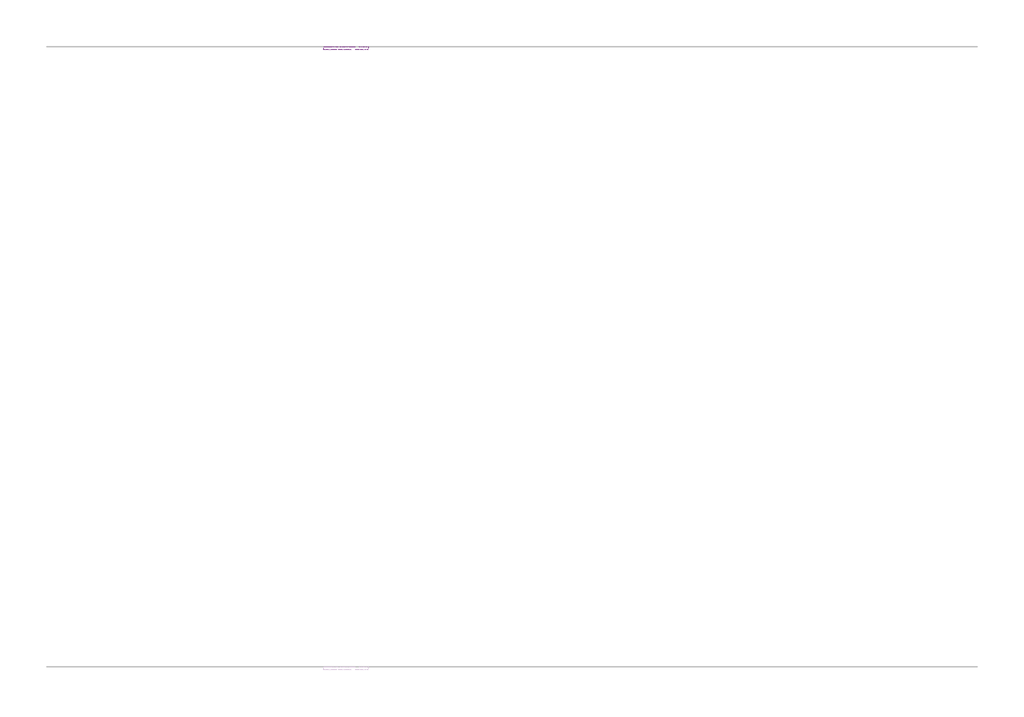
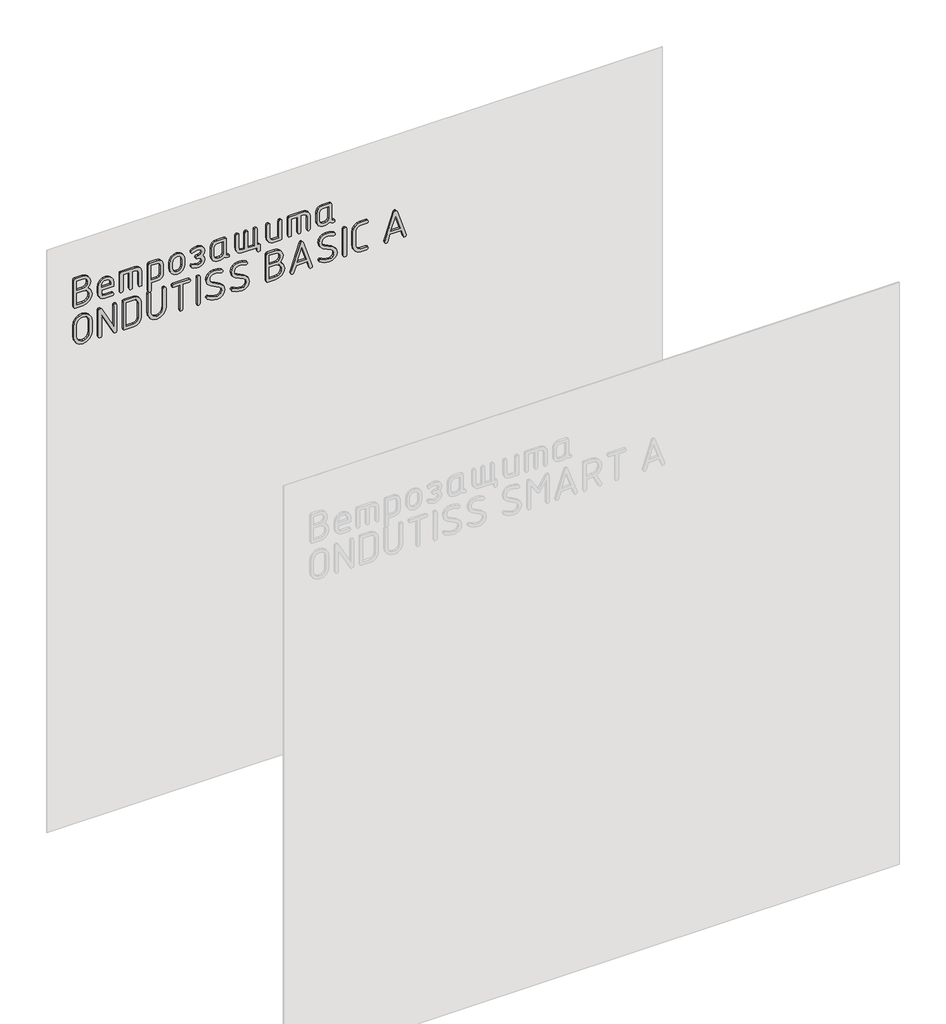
# One storey, part 26 of 42: 1 proxy.
"""IFC4 building model written with IfcOpenShell, lengths in millimetres."""

import ifcopenshell
import ifcopenshell.guid

model = None  # the IFC model being written
_history = None  # IfcOwnerHistory: only IFC2X3 demands one
_inside = {}  # id of a spatial element -> (the spatial element, [elements in it])
_under = {}  # id of a project, library or spatial element -> (it, [spatial elements below it])
_declared = {}  # id of a project -> (the project, [libraries it declares])
_typed = {}  # id of a type object -> (the type object, [elements of that type])
_made_of = {}  # id of a material, layer set ... -> (it, [elements and type objects made of it])


def new_model(schema):
    """Start an empty IFC model of exactly this schema.

    Asked for "IFC4X3", IfcOpenShell would pick the latest addendum, in which some entities
    have other attributes; the version numbers below select the first issue.
    IFC2X3 requires an IfcOwnerHistory on every rooted entity: one is made here for all.
    """
    global model, _history
    if schema == "IFC4X3":
        model = ifcopenshell.file(schema_version=(4, 3, 0, 0))
    else:
        model = ifcopenshell.file(schema=schema)
    _inside.clear()
    _under.clear()
    _declared.clear()
    _typed.clear()
    _made_of.clear()
    _history = None
    if model.schema == "IFC2X3":
        org = make("IfcOrganization", Name="unknown")
        user = make(
            "IfcPersonAndOrganization",
            ThePerson=make("IfcPerson", FamilyName="unknown"),
            TheOrganization=org,
        )
        app = make(
            "IfcApplication",
            ApplicationDeveloper=org,
            Version="unknown",
            ApplicationFullName="unknown",
            ApplicationIdentifier="unknown",
        )
        _history = make(
            "IfcOwnerHistory",
            OwningUser=user,
            OwningApplication=app,
            ChangeAction="ADDED",
            CreationDate=0,
        )
    return model


def make(cls, **values):
    """One entity of the class cls with the attributes given. An attribute that is None is left unset."""
    return model.create_entity(
        cls, **{name: value for name, value in values.items() if value is not None}
    )


def rooted(cls, **values):
    """An entity with a GlobalId (a new one), such as an element, a storey or a relation."""
    return make(cls, GlobalId=ifcopenshell.guid.new(), OwnerHistory=_history, **values)


def si_unit(unit_type, name, prefix=None):
    """IfcSIUnit, for example si_unit("LENGTHUNIT", "METRE", prefix="MILLI")."""
    return make("IfcSIUnit", UnitType=unit_type, Prefix=prefix, Name=name)


def assignment(units):
    """IfcUnitAssignment: the units of a project."""
    return None if units is None else make("IfcUnitAssignment", Units=units)


def point(xyz):
    """IfcCartesianPoint."""
    return None if xyz is None else make("IfcCartesianPoint", Coordinates=xyz)


def direction(xyz):
    """IfcDirection."""
    return None if xyz is None else make("IfcDirection", DirectionRatios=xyz)


def frame(location, z_axis=None, x_axis=None):
    """IfcAxis2Placement3D, a coordinate frame: its origin and axes. An axis left out is left unset."""
    return make(
        "IfcAxis2Placement3D",
        Location=point(location),
        Axis=direction(z_axis),
        RefDirection=direction(x_axis),
    )


def origin():
    """The frame at (0, 0, 0) with its axes left unset."""
    return frame((0.0, 0.0, 0.0))


def place(relative_to, where):
    """IfcLocalPlacement: puts the frame where relative to a parent placement (None: the world)."""
    return make(
        "IfcLocalPlacement", PlacementRelTo=relative_to, RelativePlacement=where
    )


def context(
    kind, dimensions, precision=None, world=None, true_north=None, identifier=None
):
    """IfcGeometricRepresentationContext, for example the 3D "Model" context."""
    return make(
        "IfcGeometricRepresentationContext",
        ContextIdentifier=identifier,
        ContextType=kind,
        CoordinateSpaceDimension=dimensions,
        Precision=precision,
        WorldCoordinateSystem=world,
        TrueNorth=true_north,
    )


def project(units=None, contexts=None):
    """IfcProject with its units and contexts."""
    return rooted(
        "IfcProject",
        Name="project",
        RepresentationContexts=contexts,
        UnitsInContext=assignment(units),
    )


def spatial(cls, under=None, at=None, **own):
    """A site, building, storey or space (cls), placed at a placement, below another one or the project."""
    s = rooted(cls, ObjectPlacement=at, **own)
    if under is not None:
        _under.setdefault(under.id(), (under, []))[1].append(s)
    return s


def polyline(points):
    """IfcPolyline through the points."""
    return make("IfcPolyline", Points=[point(p) for p in points])


def outline(outer, holes=None, kind="AREA"):
    """IfcArbitraryClosedProfileDef: a profile drawn as a closed curve; with holes, ...WithVoids."""
    if holes is None:
        return make("IfcArbitraryClosedProfileDef", ProfileType=kind, OuterCurve=outer)
    return make(
        "IfcArbitraryProfileDefWithVoids",
        ProfileType=kind,
        OuterCurve=outer,
        InnerCurves=holes,
    )


def extrude(swept, where, along, depth):
    """IfcExtrudedAreaSolid: the profile swept, set in the frame where, extruded along a direction by depth."""
    return make(
        "IfcExtrudedAreaSolid",
        SweptArea=swept,
        Position=where,
        ExtrudedDirection=direction(along),
        Depth=depth,
    )


def shape(context_of_items, identifier, shape_type, items):
    """IfcShapeRepresentation: the items that make up one representation, for example the "Body"."""
    return make(
        "IfcShapeRepresentation",
        ContextOfItems=context_of_items,
        RepresentationIdentifier=identifier,
        RepresentationType=shape_type,
        Items=items,
    )


def made_of(thing, what):
    """Note that an element or type object is made of a material, layer set ...; save() writes the relation."""
    if what is not None:
        _made_of.setdefault(what.id(), (what, []))[1].append(thing)
    return thing


def element(
    cls,
    number,
    at=None,
    inside=None,
    cuts=None,
    type_object=None,
    material=None,
    context=None,
    identifier="Body",
    shape_type=None,
    held_by="IfcProductDefinitionShape",
    body=None,
    shapes=None,
    **own,
):
    """One element of the class cls, such as IfcWall. Its Tag is "e" and its number.

    at: its placement. inside: the storey or other place that contains it. cuts: it is an
    opening in that element (IfcRelVoidsElement). A single representation is given by context,
    identifier, shape_type and body (its items); several are given by shapes. held_by: the class
    of the entity that holds the representations. save() writes the other relations.
    """
    e = rooted(cls, Tag="e%d" % number, ObjectPlacement=at, **own)
    if body is not None:
        shapes = [shape(context, identifier, shape_type, body)]
    if shapes is not None:
        e.Representation = make(held_by, Representations=shapes)
    if inside is not None:
        _inside.setdefault(inside.id(), (inside, []))[1].append(e)
    if cuts is not None:
        rooted(
            "IfcRelVoidsElement", RelatingBuildingElement=cuts, RelatedOpeningElement=e
        )
    if type_object is not None:
        _typed.setdefault(type_object.id(), (type_object, []))[1].append(e)
    return made_of(e, material)


def aggregate(whole, parts):
    """IfcRelAggregates: a whole, such as a stair, and the parts it consists of."""
    return rooted("IfcRelAggregates", RelatingObject=whole, RelatedObjects=parts)


def save(model, path):
    """Write the relations noted so far, then the file.

    IfcRelAggregates (storeys below a building ...), IfcRelContainedInSpatialStructure (elements
    in a storey), IfcRelDefinesByType, IfcRelAssociatesMaterial and IfcRelDeclares: one each for
    every whole, place, type object, material and project.
    """
    for whole, parts in _under.values():
        aggregate(whole, parts)
    for where, things in _inside.values():
        rooted(
            "IfcRelContainedInSpatialStructure",
            RelatedElements=things,
            RelatingStructure=where,
        )
    for kind, things in _typed.values():
        rooted("IfcRelDefinesByType", RelatedObjects=things, RelatingType=kind)
    for what, things in _made_of.values():
        rooted("IfcRelAssociatesMaterial", RelatedObjects=things, RelatingMaterial=what)
    for by, libraries in _declared.values():
        rooted("IfcRelDeclares", RelatingContext=by, RelatedDefinitions=libraries)
    model.write(path)


model = new_model("IFC4")

# Units and contexts
model_context = context("Model", 3, world=origin())
ifc_project = project(units=[si_unit("LENGTHUNIT", "METRE", prefix="MILLI")], contexts=[model_context])

# Site, building, storey
site = spatial("IfcSite", under=ifc_project)
building = spatial("IfcBuilding", under=site)
storey = spatial("IfcBuildingStorey", under=building, Name="Этаж 01", Elevation=0.0)

# Proxy
placement = place(None, origin())
element("IfcBuildingElementProxy", 1, Name="150 мм GOST Common", ObjectType="150 мм GOST Common", at=placement, inside=storey, context=model_context, shape_type="SweptSolid", body=[
    extrude(outline(polyline([(2745.2967896, -23242.9801231), (2758.5207699, -23232.3430091), (2775.180588, -23228.7973044), (2790.0625597, -23231.4890436), (2802.4275806, -23239.5642611), (2810.7574896, -23251.5547357), (2813.534126, -23265.9922459), (2813.534126, -23303.1871874), (2811.6464128, -23308.7604359), (2805.9832732, -23310.6181854), (2670.2277293, -23310.6181854), (2664.5645897, -23308.750448), (2662.6768765, -23303.1472358), (2662.6768765, -23265.8723911), (2665.9479139, -23248.6932022), (2675.7610262, -23234.2307223), (2690.1885485, -23224.4026281), (2707.302816, -23221.1265968), (2729.4859431, -23226.5899784), (2745.2967896, -23242.9801231)]), holes=[polyline([(2798.1927108, -23295.2767702), (2798.1927108, -23266.0721491), (2796.5097495, -23257.6373671), (2791.4608658, -23250.5509517), (2784.0248739, -23245.7417776), (2775.180588, -23244.1387196), (2766.3363021, -23245.7417776), (2758.9003101, -23250.5509517), (2753.8514264, -23257.6373671), (2752.1684652, -23266.0721491), (2752.1684652, -23295.2767702), (2798.1927108, -23295.2767702)]), polyline([(2736.82705, -23295.2767702), (2736.82705, -23265.8723911), (2734.6946332, -23254.4811906), (2728.2973829, -23244.997679), (2718.8138714, -23238.6004287), (2707.4226708, -23236.468012), (2696.0314703, -23238.6004287), (2686.5479588, -23244.997679), (2680.1507085, -23254.4811906), (2678.0182917, -23265.8723911), (2678.0182917, -23295.2767702), (2736.82705, -23295.2767702)])]), frame((0.0, -21838.3929597, 0.0), z_axis=(0.0, 1.0, 0.0), x_axis=(0.0, 0.0, 1.0)), (0.0, 0.0, 1.0), 10.0),
    extrude(outline(polyline([(2708.7011221, -23175.1023512), (2708.7011221, -23115.0950449), (2730.7544065, -23115.0950449), (2745.0371042, -23117.8067599), (2756.8827542, -23125.9419048), (2764.8530988, -23138.0322584), (2767.5098804, -23152.6095992), (2764.7731956, -23167.0770731), (2756.5631414, -23179.3172452), (2744.4677939, -23187.6621361), (2730.0752292, -23190.4437664), (2692.6405781, -23190.4437664), (2681.004674, -23188.2264525), (2671.3463742, -23181.5745107), (2664.8442509, -23171.7763803), (2662.6768765, -23160.1205004), (2662.6768765, -23122.6059461), (2664.5945534, -23116.9727702), (2670.3475841, -23115.0950449), (2676.1006148, -23116.9727702), (2678.0182917, -23122.6059461), (2678.0182917, -23160.1205004), (2682.5527986, -23170.6677234), (2693.3597069, -23175.1023512), (2708.7011221, -23175.1023512)]), holes=[polyline([(2754.0461905, -23152.6095992), (2752.3981869, -23143.9800532), (2747.4541761, -23136.7088616), (2740.1829845, -23131.7648508), (2731.5534385, -23130.1168472), (2724.0425373, -23130.1168472), (2724.0425373, -23175.1023512), (2731.5534385, -23175.1023512), (2740.1829845, -23173.4543476), (2747.4541761, -23168.5103368), (2752.3981869, -23161.2391453), (2754.0461905, -23152.6095992)])]), frame((0.0, -21838.3929597, 0.0), z_axis=(0.0, 1.0, 0.0), x_axis=(0.0, 0.0, 1.0)), (0.0, 0.0, 1.0), 10.0),
    extrude(outline(polyline([(2767.5098804, -23077.9400549), (2765.642143, -23083.6930856), (2760.0389308, -23085.6107625), (2670.1478261, -23085.6107625), (2664.5446139, -23083.6930856), (2662.6768765, -23077.9400549), (2664.5446139, -23072.1870242), (2670.1478261, -23070.2693473), (2752.1684652, -23070.2693473), (2752.1684652, -23039.5865169), (2670.1478261, -23039.5865169), (2664.5446139, -23037.66884), (2662.6768765, -23031.9158093), (2664.5446139, -23026.1627786), (2670.1478261, -23024.2451017), (2752.1684652, -23024.2451017), (2752.1684652, -23008.9036865), (2747.8736679, -22997.9769234), (2737.2665176, -22993.5622713), (2670.1478261, -22993.5622713), (2664.5446139, -22991.6445944), (2662.6768765, -22985.8915637), (2664.5446139, -22980.138533), (2670.1478261, -22978.2208561), (2737.5461788, -22978.2208561), (2749.1071737, -22980.4581459), (2758.7804553, -22987.170015), (2765.3275241, -22997.0780123), (2767.5098804, -23008.9036865), (2767.5098804, -23077.9400549)])), frame((0.0, -21838.3929597, 0.0), z_axis=(0.0, 1.0, 0.0), x_axis=(0.0, 0.0, 1.0)), (0.0, 0.0, 1.0), 10.0),
    extrude(outline(polyline([(2759.9590276, -22947.5380258), (2624.2034837, -22947.5380258), (2618.5403441, -22945.6203489), (2616.6526309, -22939.8673182), (2618.5703078, -22934.1142875), (2624.3233385, -22932.1966106), (2662.6768765, -22932.1966106), (2662.6768765, -22902.7922314), (2664.8592328, -22891.4010309), (2671.4063016, -22881.9175193), (2681.0795832, -22875.5202691), (2692.6405781, -22873.3878523), (2737.5461788, -22873.3878523), (2749.1820829, -22875.5352509), (2758.8403827, -22881.9774467), (2765.342506, -22891.5358675), (2767.5098804, -22903.031941), (2767.5098804, -22940.1070278), (2765.6221672, -22945.6802763), (2759.9590276, -22947.5380258)]), holes=[polyline([(2752.1684652, -22932.1966106), (2752.1684652, -22903.2316991), (2747.8936437, -22892.9042099), (2737.3464208, -22888.7292675), (2692.8403361, -22888.7292675), (2682.3530405, -22892.9641373), (2678.0182917, -22903.2316991), (2678.0182917, -22932.1966106), (2752.1684652, -22932.1966106)])]), frame((0.0, -21838.3929597, 0.0), z_axis=(0.0, 1.0, 0.0), x_axis=(0.0, 0.0, 1.0)), (0.0, 0.0, 1.0), 10.0),
    extrude(outline(polyline([(2700.1115277, -22842.7050219), (2685.718963, -22839.9933069), (2673.6236155, -22831.8581619), (2665.4135613, -22819.8776753), (2662.6768765, -22805.6299352), (2665.4135613, -22791.3821951), (2673.6236155, -22779.4017084), (2685.718963, -22771.2665634), (2700.1115277, -22768.5548485), (2730.0752292, -22768.5548485), (2744.6176124, -22771.2365997), (2756.6829962, -22779.2818536), (2764.8031593, -22791.2323766), (2767.5098804, -22805.6299352), (2764.7731956, -22819.8776753), (2756.5631414, -22831.8581619), (2744.4677939, -22839.9933069), (2730.0752292, -22842.7050219), (2700.1115277, -22842.7050219)]), holes=[polyline([(2700.5509953, -22783.8962636), (2691.8914855, -22785.4893338), (2684.6103061, -22790.2685442), (2679.6662953, -22797.2950322), (2678.0182917, -22805.6299352), (2679.6563074, -22814.0397474), (2684.5703545, -22821.0512536), (2691.841546, -22825.7855184), (2700.5509953, -22827.3636067), (2730.5546484, -22827.3636067), (2739.1841945, -22825.7705366), (2746.4553861, -22820.9913262), (2751.3993968, -22813.9648382), (2753.0474004, -22805.6299352), (2751.3993968, -22797.2950322), (2746.4553861, -22790.2685442), (2739.1841945, -22785.4893338), (2730.5546484, -22783.8962636), (2700.5509953, -22783.8962636)])]), frame((0.0, -21838.3929597, 0.0), z_axis=(0.0, 1.0, 0.0), x_axis=(0.0, 0.0, 1.0)), (0.0, 0.0, 1.0), 10.0),
    extrude(outline(polyline([(2693.3996585, -22686.7339674), (2682.5128469, -22691.1086678), (2678.0182917, -22701.7557698), (2678.0182917, -22709.266671), (2681.8336697, -22724.3084492), (2685.6490477, -22733.4373902), (2682.9323388, -22737.5524052), (2677.6587273, -22739.2703241), (2671.7059386, -22736.2240145), (2666.6320851, -22727.0850855), (2662.6768765, -22709.266671), (2662.6768765, -22701.7557698), (2664.8991844, -22690.0699262), (2671.566108, -22680.2618079), (2681.4591234, -22673.6098661), (2693.3597069, -22671.3925522), (2707.1829612, -22674.0393458), (2716.3718297, -22681.9797267), (2725.0113637, -22674.0393458), (2738.3052592, -22671.3925522), (2749.6215505, -22673.6098661), (2759.0401407, -22680.2618079), (2765.3924455, -22690.0699262), (2767.5098804, -22701.7557698), (2767.5098804, -22709.266671), (2763.434817, -22726.9652307), (2758.2710724, -22736.1940508), (2752.5280296, -22739.2703241), (2747.2743939, -22737.5524052), (2744.5377092, -22733.557245), (2748.3530872, -22724.6480378), (2752.1684652, -22709.266671), (2752.1684652, -22701.7557698), (2748.1133776, -22691.0687162), (2738.1055012, -22686.7339674), (2728.0976249, -22690.7690792), (2724.0425373, -22702.434947), (2724.0425373, -22704.8320431), (2724.0425373, -22707.1092845), (2721.7852718, -22714.5203066), (2716.3318781, -22716.7376206), (2710.8984602, -22714.580234), (2708.7011221, -22709.266671), (2708.7011221, -22699.5983833), (2704.7459135, -22690.7291276), (2693.3996585, -22686.7339674)])), frame((0.0, -21838.3929597, 0.0), z_axis=(0.0, 1.0, 0.0), x_axis=(0.0, 0.0, 1.0)), (0.0, 0.0, 1.0), 10.0),
    extrude(outline(polyline([(2670.1478261, -22551.5776976), (2675.781002, -22553.4504289), (2677.6587273, -22559.068623), (2679.5264647, -22564.686817), (2685.1296769, -22566.5595483), (2760.0389308, -22566.5595483), (2765.642143, -22568.4172978), (2767.5098804, -22573.9905463), (2767.5098804, -22611.0656331), (2765.342506, -22622.5617066), (2758.8403827, -22632.1201274), (2749.1820829, -22638.5623232), (2737.5461788, -22640.7097218), (2692.6405781, -22640.7097218), (2681.004674, -22638.5623232), (2671.3463742, -22632.1201274), (2664.8442509, -22622.5617066), (2662.6768765, -22611.0656331), (2662.6768765, -22596.2036371), (2664.6644687, -22585.2269344), (2670.6272453, -22576.1079812), (2664.6644687, -22568.5271648), (2662.6768765, -22559.0486472), (2664.5446139, -22553.445435), (2670.1478261, -22551.5776976)]), holes=[polyline([(2752.1684652, -22581.9009635), (2692.8403361, -22581.9009635), (2682.3530405, -22586.1358334), (2678.0182917, -22596.4033951), (2678.0182917, -22610.8658751), (2682.3929921, -22621.0934852), (2692.8403361, -22625.3683066), (2737.3464208, -22625.3683066), (2747.8337163, -22621.1334368), (2752.1684652, -22610.8658751), (2752.1684652, -22581.9009635)])]), frame((0.0, -21838.3929597, 0.0), z_axis=(0.0, 1.0, 0.0), x_axis=(0.0, 0.0, 1.0)), (0.0, 0.0, 1.0), 10.0),
    extrude(outline(polyline([(2662.6768765, -22415.7022989), (2647.3354613, -22415.7022989), (2641.5824306, -22413.784622), (2639.6647537, -22408.0315913), (2641.5824306, -22402.2785606), (2647.3354613, -22400.3608837), (2670.3475841, -22400.3608837), (2676.1006148, -22402.2785606), (2678.0182917, -22408.0315913), (2678.0182917, -22415.7022989), (2760.0389308, -22415.7022989), (2765.642143, -22417.6199758), (2767.5098804, -22423.3730065), (2765.642143, -22429.1260372), (2760.0389308, -22431.0437141), (2678.0182917, -22431.0437141), (2678.0182917, -22461.7265445), (2760.0389308, -22461.7265445), (2765.642143, -22463.6442214), (2767.5098804, -22469.3972521), (2765.642143, -22475.1502828), (2760.0389308, -22477.0679597), (2678.0182917, -22477.0679597), (2678.0182917, -22491.1309236), (2682.4329437, -22501.0389209), (2692.9202393, -22505.1938876), (2760.0389308, -22505.1938876), (2765.642143, -22507.1115645), (2767.5098804, -22512.8645952), (2765.642143, -22518.6176259), (2760.0389308, -22520.5353028), (2692.6405781, -22520.5353028), (2681.0795832, -22518.3679283), (2671.4063016, -22511.8658051), (2664.8592328, -22502.2075053), (2662.6768765, -22490.5716012), (2662.6768765, -22415.7022989)])), frame((0.0, -21838.3929597, 0.0), z_axis=(0.0, 1.0, 0.0), x_axis=(0.0, 0.0, 1.0)), (0.0, 0.0, 1.0), 10.0),
    extrude(outline(polyline([(2760.0389308, -22295.5278799), (2765.642143, -22297.4455568), (2767.5098804, -22303.1985875), (2765.642143, -22308.9516182), (2760.0389308, -22310.8692951), (2678.0182917, -22310.8692951), (2678.0182917, -22339.8342066), (2682.4329437, -22350.0618167), (2692.9202393, -22354.3366381), (2760.0389308, -22354.3366381), (2765.642143, -22356.254315), (2767.5098804, -22362.0073457), (2765.642143, -22367.7603764), (2760.0389308, -22369.6780533), (2692.6405781, -22369.6780533), (2681.004674, -22367.5306547), (2671.3463742, -22361.0884589), (2664.8442509, -22351.5300381), (2662.6768765, -22340.0339646), (2662.6768765, -22302.9588778), (2664.5446139, -22297.3856294), (2670.1478261, -22295.5278799), (2760.0389308, -22295.5278799)])), frame((0.0, -21838.3929597, 0.0), z_axis=(0.0, 1.0, 0.0), x_axis=(0.0, 0.0, 1.0)), (0.0, 0.0, 1.0), 10.0),
    extrude(outline(polyline([(2767.5098804, -22257.1743419), (2765.642143, -22262.9273726), (2760.0389308, -22264.8450495), (2670.1478261, -22264.8450495), (2664.5446139, -22262.9273726), (2662.6768765, -22257.1743419), (2664.5446139, -22251.4213112), (2670.1478261, -22249.5036343), (2752.1684652, -22249.5036343), (2752.1684652, -22218.8208039), (2670.1478261, -22218.8208039), (2664.5446139, -22216.903127), (2662.6768765, -22211.1500963), (2664.5446139, -22205.3970656), (2670.1478261, -22203.4793887), (2752.1684652, -22203.4793887), (2752.1684652, -22188.1379735), (2747.8736679, -22177.2112103), (2737.2665176, -22172.7965583), (2670.1478261, -22172.7965583), (2664.5446139, -22170.8788814), (2662.6768765, -22165.1258507), (2664.5446139, -22159.37282), (2670.1478261, -22157.4551431), (2737.5461788, -22157.4551431), (2749.1071737, -22159.6924328), (2758.7804553, -22166.4043019), (2765.3275241, -22176.3122993), (2767.5098804, -22188.1379735), (2767.5098804, -22257.1743419)])), frame((0.0, -21838.3929597, 0.0), z_axis=(0.0, 1.0, 0.0), x_axis=(0.0, 0.0, 1.0)), (0.0, 0.0, 1.0), 10.0),
    extrude(outline(polyline([(2670.1478261, -22037.6402885), (2675.781002, -22039.5130198), (2677.6587273, -22045.1312138), (2679.5264647, -22050.7494079), (2685.1296769, -22052.6221392), (2760.0389308, -22052.6221392), (2765.642143, -22054.4798887), (2767.5098804, -22060.0531372), (2767.5098804, -22097.1282239), (2765.342506, -22108.6242974), (2758.8403827, -22118.1827182), (2749.1820829, -22124.6249141), (2737.5461788, -22126.7723127), (2692.6405781, -22126.7723127), (2681.004674, -22124.6249141), (2671.3463742, -22118.1827182), (2664.8442509, -22108.6242974), (2662.6768765, -22097.1282239), (2662.6768765, -22082.266228), (2664.6644687, -22071.2895253), (2670.6272453, -22062.1705721), (2664.6644687, -22054.5897556), (2662.6768765, -22045.111238), (2664.5446139, -22039.5080259), (2670.1478261, -22037.6402885)]), holes=[polyline([(2752.1684652, -22067.9635544), (2692.8403361, -22067.9635544), (2682.3530405, -22072.1984243), (2678.0182917, -22082.465986), (2678.0182917, -22096.9284659), (2682.3929921, -22107.1560761), (2692.8403361, -22111.4308975), (2737.3464208, -22111.4308975), (2747.8337163, -22107.1960277), (2752.1684652, -22096.9284659), (2752.1684652, -22067.9635544)])]), frame((0.0, -21838.3929597, 0.0), z_axis=(0.0, 1.0, 0.0), x_axis=(0.0, 0.0, 1.0)), (0.0, 0.0, 1.0), 10.0),
    extrude(outline(polyline([(2511.9177961, -23221.1265968), (2572.2447152, -23221.1265968), (2589.6885835, -23224.3876463), (2604.3058759, -23234.1707949), (2614.2088792, -23248.618293), (2617.5098804, -23265.8723911), (2614.1938974, -23283.05158), (2604.2459485, -23297.5140599), (2589.6136742, -23307.3421541), (2572.2447152, -23310.6181854), (2511.9177961, -23310.6181854), (2494.5488371, -23307.3421541), (2479.9165628, -23297.5140599), (2469.9686139, -23283.05158), (2466.6526309, -23265.8723911), (2469.9686139, -23248.6932022), (2479.9165628, -23234.2307223), (2494.5488371, -23224.4026281), (2511.9177961, -23221.1265968)]), holes=[polyline([(2512.0376509, -23236.468012), (2500.3917589, -23238.6004287), (2490.7034954, -23244.997679), (2484.1714084, -23254.4811906), (2481.9940461, -23265.8723911), (2484.1714084, -23277.2635916), (2490.7034954, -23286.7471032), (2500.3917589, -23293.1443535), (2512.0376509, -23295.2767702), (2572.1248604, -23295.2767702), (2583.7707524, -23293.1443535), (2593.4590159, -23286.7471032), (2599.9911029, -23277.2635916), (2602.1684652, -23265.8723911), (2599.9911029, -23254.4811906), (2593.4590159, -23244.997679), (2583.7707524, -23238.6004287), (2572.1248604, -23236.468012), (2512.0376509, -23236.468012)])]), frame((0.0, -21838.3929597, 0.0), z_axis=(0.0, 1.0, 0.0), x_axis=(0.0, 0.0, 1.0)), (0.0, 0.0, 1.0), 10.0),
    extrude(outline(polyline([(2503.3282016, -23116.2935929), (2613.0353009, -23175.1023512), (2617.5098804, -23182.453446), (2615.6221672, -23188.4461863), (2609.9590276, -23190.4437664), (2474.2034837, -23190.4437664), (2468.5403441, -23188.5260895), (2466.6526309, -23182.7730588), (2468.5403441, -23177.0200281), (2474.2034837, -23175.1023512), (2580.9541645, -23175.1023512), (2470.4080815, -23116.2935929), (2466.6526309, -23109.1023046), (2468.5403441, -23102.9897094), (2474.2034837, -23100.9521777), (2609.9590276, -23100.9521777), (2615.6221672, -23102.8698546), (2617.5098804, -23108.6228853), (2615.6221672, -23114.375916), (2609.9590276, -23116.2935929), (2503.3282016, -23116.2935929)])), frame((0.0, -21838.3929597, 0.0), z_axis=(0.0, 1.0, 0.0), x_axis=(0.0, 0.0, 1.0)), (0.0, 0.0, 1.0), 10.0),
    extrude(outline(polyline([(2609.9590276, -23070.2693473), (2474.2034837, -23070.2693473), (2468.5403441, -23068.4016099), (2466.6526309, -23062.7983977), (2466.6526309, -23018.0526034), (2469.4092915, -23003.7299541), (2477.6792731, -22991.684546), (2489.8645117, -22983.5044555), (2504.3669433, -22980.7777587), (2579.795568, -22980.7777587), (2594.4478181, -22983.4744918), (2606.603093, -22991.5646912), (2614.7831835, -23003.5801356), (2617.5098804, -23018.0526034), (2617.5098804, -23062.7983977), (2615.6221672, -23068.4016099), (2609.9590276, -23070.2693473)]), holes=[polyline([(2602.1684652, -23054.9279321), (2602.1684652, -23018.1724582), (2600.5204616, -23009.6977246), (2595.5764508, -23002.5713576), (2588.2952713, -22997.7322198), (2579.6357616, -22996.1191739), (2504.5267497, -22996.1191739), (2495.8672399, -22997.7322198), (2488.5860605, -23002.5713576), (2483.6420497, -23009.6977246), (2481.9940461, -23018.1724582), (2481.9940461, -23054.9279321), (2602.1684652, -23054.9279321)])]), frame((0.0, -21838.3929597, 0.0), z_axis=(0.0, 1.0, 0.0), x_axis=(0.0, 0.0, 1.0)), (0.0, 0.0, 1.0), 10.0),
    extrude(outline(polyline([(2609.9590276, -22860.6033396), (2615.6221672, -22862.5210165), (2617.5098804, -22868.2740472), (2615.6321551, -22874.0270779), (2609.9989792, -22875.9447548), (2512.1175541, -22875.9447548), (2500.4367044, -22878.0771716), (2490.7234712, -22884.4744219), (2484.1764024, -22893.9579334), (2481.9940461, -22905.349134), (2484.1764024, -22916.7403345), (2490.7234712, -22926.223846), (2500.4367044, -22932.6210963), (2512.1175541, -22934.7535131), (2609.9989792, -22934.7535131), (2615.6321551, -22936.67119), (2617.5098804, -22942.4242207), (2615.6221672, -22948.1772514), (2609.9590276, -22950.0949283), (2511.9177961, -22950.0949283), (2494.5488371, -22946.8188969), (2479.9165628, -22936.9908028), (2469.9686139, -22922.5283229), (2466.6526309, -22905.349134), (2469.9686139, -22888.1699451), (2479.9165628, -22873.7074651), (2494.5488371, -22863.879371), (2511.9177961, -22860.6033396), (2609.9590276, -22860.6033396)])), frame((0.0, -21838.3929597, 0.0), z_axis=(0.0, 1.0, 0.0), x_axis=(0.0, 0.0, 1.0)), (0.0, 0.0, 1.0), 10.0),
    extrude(outline(polyline([(2609.8391728, -22831.6384281), (2604.0861421, -22829.7607028), (2602.1684652, -22824.1275269), (2602.1684652, -22794.1238738), (2474.1635321, -22794.1238738), (2468.5303562, -22792.2061969), (2466.6526309, -22786.4531662), (2468.5303562, -22780.7001355), (2474.1635321, -22778.7824586), (2602.1684652, -22778.7824586), (2602.1684652, -22748.7788054), (2604.0861421, -22743.1755932), (2609.8391728, -22741.3078558), (2615.5922035, -22743.1755932), (2617.5098804, -22748.7788054), (2617.5098804, -22824.1275269), (2615.5922035, -22829.7607028), (2609.8391728, -22831.6384281)])), frame((0.0, -21838.3929597, 0.0), z_axis=(0.0, 1.0, 0.0), x_axis=(0.0, 0.0, 1.0)), (0.0, 0.0, 1.0), 10.0),
    extrude(outline(polyline([(2466.6526309, -22702.0753826), (2468.5403441, -22696.3223519), (2474.2034837, -22694.404675), (2609.9590276, -22694.404675), (2615.6221672, -22696.3223519), (2617.5098804, -22702.0753826), (2615.6221672, -22707.8284133), (2609.9590276, -22709.7460902), (2474.2034837, -22709.7460902), (2468.5403441, -22707.8284133), (2466.6526309, -22702.0753826)])), frame((0.0, -21838.3929597, 0.0), z_axis=(0.0, 1.0, 0.0), x_axis=(0.0, 0.0, 1.0)), (0.0, 0.0, 1.0), 10.0),
    extrude(outline(polyline([(2504.2870401, -22574.2302559), (2524.1429863, -22579.3140973), (2537.8463858, -22594.5656214), (2559.5001542, -22636.2351424), (2567.6602689, -22645.3441076), (2579.59581, -22648.3804294), (2588.2603137, -22646.7673835), (2595.556475, -22641.9282457), (2600.5154676, -22634.8018786), (2602.1684652, -22626.3271451), (2600.4904979, -22609.567448), (2595.456596, -22592.6878961), (2594.657564, -22589.5716711), (2596.8748779, -22584.2780839), (2602.1684652, -22582.06077), (2609.1599955, -22586.4953978), (2615.4224092, -22603.4648408), (2617.5098804, -22626.6467579), (2614.7432319, -22640.8195887), (2606.4432866, -22652.8150572), (2594.2680359, -22660.9951478), (2579.8754712, -22663.7218446), (2560.0494887, -22658.6979306), (2546.4359803, -22643.6261888), (2524.7822119, -22601.9167162), (2516.5322061, -22592.6579324), (2504.5667013, -22589.5716711), (2495.9021976, -22591.1996989), (2488.6060363, -22596.0837823), (2483.6470437, -22603.2750707), (2481.9940461, -22611.8247135), (2485.1901743, -22631.6007565), (2495.657494, -22652.0559768), (2497.0158485, -22656.2908466), (2494.7985346, -22661.5245065), (2489.5049473, -22663.7218446), (2483.3923522, -22660.4458132), (2470.8375612, -22637.5235815), (2466.6526309, -22611.5051007), (2469.4192794, -22597.2573606), (2477.7192247, -22585.1969707), (2489.8944754, -22576.9719346), (2504.2870401, -22574.2302559)])), frame((0.0, -21838.3929597, 0.0), z_axis=(0.0, 1.0, 0.0), x_axis=(0.0, 0.0, 1.0)), (0.0, 0.0, 1.0), 10.0),
    extrude(outline(polyline([(2504.2870401, -22454.0558369), (2524.1429863, -22459.1396783), (2537.8463858, -22474.3912024), (2559.5001542, -22516.0607233), (2567.6602689, -22525.1696886), (2579.59581, -22528.2060104), (2588.2603137, -22526.5929644), (2595.556475, -22521.7538266), (2600.5154676, -22514.6274596), (2602.1684652, -22506.152726), (2600.4904979, -22489.3930289), (2595.456596, -22472.5134771), (2594.657564, -22469.3972521), (2596.8748779, -22464.1036648), (2602.1684652, -22461.8863509), (2609.1599955, -22466.3209787), (2615.4224092, -22483.2904217), (2617.5098804, -22506.4723388), (2614.7432319, -22520.6451697), (2606.4432866, -22532.6406382), (2594.2680359, -22540.8207287), (2579.8754712, -22543.5474256), (2560.0494887, -22538.5235116), (2546.4359803, -22523.4517697), (2524.7822119, -22481.7422971), (2516.5322061, -22472.4835134), (2504.5667013, -22469.3972521), (2495.9021976, -22471.0252799), (2488.6060363, -22475.9093632), (2483.6470437, -22483.1006516), (2481.9940461, -22491.6502945), (2485.1901743, -22511.4263375), (2495.657494, -22531.8815577), (2497.0158485, -22536.1164276), (2494.7985346, -22541.3500874), (2489.5049473, -22543.5474256), (2483.3923522, -22540.2713942), (2470.8375612, -22517.3491625), (2466.6526309, -22491.3306816), (2469.4192794, -22477.0829415), (2477.7192247, -22465.0225517), (2489.8944754, -22456.7975156), (2504.2870401, -22454.0558369)])), frame((0.0, -21838.3929597, 0.0), z_axis=(0.0, 1.0, 0.0), x_axis=(0.0, 0.0, 1.0)), (0.0, 0.0, 1.0), 10.0),
    extrude(outline(polyline([(2549.272544, -22304.5968935), (2562.4965243, -22293.9597795), (2579.1563424, -22290.4140748), (2594.0383141, -22293.105814), (2606.403335, -22301.1810316), (2614.733244, -22313.1715061), (2617.5098804, -22327.6090163), (2617.5098804, -22364.8039579), (2615.6221672, -22370.3772064), (2609.9590276, -22372.2349558), (2474.2034837, -22372.2349558), (2468.5403441, -22370.3672185), (2466.6526309, -22364.7640063), (2466.6526309, -22327.4891615), (2469.9236683, -22310.3099726), (2479.7367806, -22295.8474927), (2494.1643029, -22286.0193986), (2511.2785704, -22282.7433672), (2533.4616975, -22288.2067488), (2549.272544, -22304.5968935)]), holes=[polyline([(2540.8028044, -22356.8935406), (2540.8028044, -22327.4891615), (2538.6703876, -22316.097961), (2532.2731373, -22306.6144494), (2522.7896258, -22300.2171992), (2511.3984253, -22298.0847824), (2500.0072247, -22300.2171992), (2490.5237132, -22306.6144494), (2484.1264629, -22316.097961), (2481.9940461, -22327.4891615), (2481.9940461, -22356.8935406), (2540.8028044, -22356.8935406)]), polyline([(2602.1684652, -22356.8935406), (2602.1684652, -22327.6889195), (2600.4855039, -22319.2541375), (2595.4366202, -22312.1677221), (2588.0006283, -22307.358548), (2579.1563424, -22305.75549), (2570.3120565, -22307.358548), (2562.8760645, -22312.1677221), (2557.8271808, -22319.2541375), (2556.1442196, -22327.6889195), (2556.1442196, -22356.8935406), (2602.1684652, -22356.8935406)])]), frame((0.0, -21838.3929597, 0.0), z_axis=(0.0, 1.0, 0.0), x_axis=(0.0, 0.0, 1.0)), (0.0, 0.0, 1.0), 10.0),
    extrude(outline(polyline([(2474.2034837, -22147.3873394), (2476.6005798, -22147.7469038), (2611.6769465, -22192.5326497), (2616.0516469, -22195.3292619), (2617.5098804, -22199.8837445), (2615.9917195, -22204.4981545), (2611.4372369, -22207.3946457), (2476.6005798, -22252.0605368), (2474.2034837, -22252.4201012), (2468.5403441, -22250.5423759), (2466.6526309, -22244.9092), (2467.9610459, -22240.3846811), (2471.8862908, -22237.7578633), (2505.0061689, -22226.9309791), (2505.0061689, -22172.8365099), (2471.8862908, -22162.0495773), (2467.9610459, -22159.4227595), (2466.6526309, -22154.8982405), (2468.5403441, -22149.2650647), (2474.2034837, -22147.3873394)]), holes=[polyline([(2586.5074372, -22199.8837445), (2520.3475841, -22177.8704117), (2520.3475841, -22221.9370288), (2586.5074372, -22199.8837445)])]), frame((0.0, -21838.3929597, 0.0), z_axis=(0.0, 1.0, 0.0), x_axis=(0.0, 0.0, 1.0)), (0.0, 0.0, 1.0), 10.0),
    extrude(outline(polyline([(2504.2870401, -22027.0531139), (2524.1429863, -22032.1369553), (2537.8463858, -22047.3884794), (2559.5001542, -22089.0580003), (2567.6602689, -22098.1669656), (2579.59581, -22101.2032874), (2588.2603137, -22099.5902414), (2595.556475, -22094.7511036), (2600.5154676, -22087.6247366), (2602.1684652, -22079.150003), (2600.4904979, -22062.3903059), (2595.456596, -22045.5107541), (2594.657564, -22042.3945291), (2596.8748779, -22037.1009418), (2602.1684652, -22034.8836279), (2609.1599955, -22039.3182557), (2615.4224092, -22056.2876987), (2617.5098804, -22079.4696158), (2614.7432319, -22093.6424467), (2606.4432866, -22105.6379152), (2594.2680359, -22113.8180057), (2579.8754712, -22116.5447026), (2560.0494887, -22111.5207886), (2546.4359803, -22096.4490467), (2524.7822119, -22054.7395741), (2516.5322061, -22045.4807904), (2504.5667013, -22042.3945291), (2495.9021976, -22044.0225569), (2488.6060363, -22048.9066402), (2483.6470437, -22056.0979286), (2481.9940461, -22064.6475715), (2485.1901743, -22084.4236145), (2495.657494, -22104.8788347), (2497.0158485, -22109.1137046), (2494.7985346, -22114.3473644), (2489.5049473, -22116.5447026), (2483.3923522, -22113.2686712), (2470.8375612, -22090.3464395), (2466.6526309, -22064.3279586), (2469.4192794, -22050.0802186), (2477.7192247, -22038.0198287), (2489.8944754, -22029.7947926), (2504.2870401, -22027.0531139)])), frame((0.0, -21838.3929597, 0.0), z_axis=(0.0, 1.0, 0.0), x_axis=(0.0, 0.0, 1.0)), (0.0, 0.0, 1.0), 10.0),
    extrude(outline(polyline([(2466.6526309, -21988.6995759), (2468.5403441, -21982.9465452), (2474.2034837, -21981.0288683), (2609.9590276, -21981.0288683), (2615.6221672, -21982.9465452), (2617.5098804, -21988.6995759), (2615.6221672, -21994.4526066), (2609.9590276, -21996.3702835), (2474.2034837, -21996.3702835), (2468.5403441, -21994.4526066), (2466.6526309, -21988.6995759)])), frame((0.0, -21838.3929597, 0.0), z_axis=(0.0, 1.0, 0.0), x_axis=(0.0, 0.0, 1.0)), (0.0, 0.0, 1.0), 10.0),
    extrude(outline(polyline([(2617.5098804, -21882.5082176), (2617.5098804, -21912.5118707), (2614.7532198, -21926.9793447), (2606.4832382, -21939.2195167), (2594.2979996, -21947.5644076), (2579.795568, -21950.3460379), (2504.3669433, -21950.3460379), (2489.8645117, -21947.5644076), (2477.6792731, -21939.2195167), (2469.4092915, -21926.9793447), (2466.6526309, -21912.5118707), (2466.6526309, -21882.5082176), (2468.5703078, -21876.8750417), (2474.3233385, -21874.9973164), (2480.0763692, -21876.8750417), (2481.9940461, -21882.5082176), (2481.9940461, -21912.5118707), (2483.6420497, -21921.1414168), (2488.5860605, -21928.4126084), (2495.8672399, -21933.3566191), (2504.5267497, -21935.0046227), (2579.6357616, -21935.0046227), (2588.2952713, -21933.371601), (2595.5764508, -21928.4725358), (2600.5204616, -21921.2163261), (2602.1684652, -21912.5118707), (2602.1684652, -21882.5082176), (2604.0861421, -21876.8750417), (2609.8391728, -21874.9973164), (2615.5922035, -21876.8750417), (2617.5098804, -21882.5082176)])), frame((0.0, -21838.3929597, 0.0), z_axis=(0.0, 1.0, 0.0), x_axis=(0.0, 0.0, 1.0)), (0.0, 0.0, 1.0), 10.0),
    extrude(outline(polyline([(2474.2034837, -21689.701786), (2476.6005798, -21690.0613504), (2611.6769465, -21734.8470963), (2616.0516469, -21737.6437085), (2617.5098804, -21742.1981911), (2615.9917195, -21746.8126011), (2611.4372369, -21749.7090923), (2476.6005798, -21794.3749834), (2474.2034837, -21794.7345478), (2468.5403441, -21792.8568225), (2466.6526309, -21787.2236466), (2467.9610459, -21782.6991277), (2471.8862908, -21780.0723099), (2505.0061689, -21769.2454257), (2505.0061689, -21715.1509565), (2471.8862908, -21704.3640239), (2467.9610459, -21701.7372061), (2466.6526309, -21697.2126872), (2468.5403441, -21691.5795113), (2474.2034837, -21689.701786)]), holes=[polyline([(2586.5074372, -21742.1981911), (2520.3475841, -21720.1848584), (2520.3475841, -21764.2514754), (2586.5074372, -21742.1981911)])]), frame((0.0, -21838.3929597, 0.0), z_axis=(0.0, 1.0, 0.0), x_axis=(0.0, 0.0, 1.0)), (0.0, 0.0, 1.0), 10.0),
])

save(model, "model.ifc")
